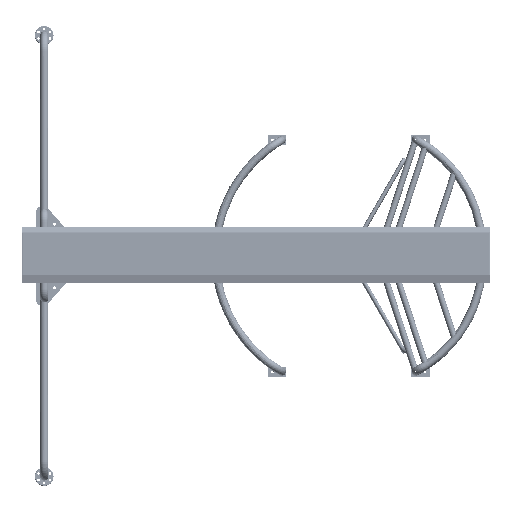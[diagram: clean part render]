
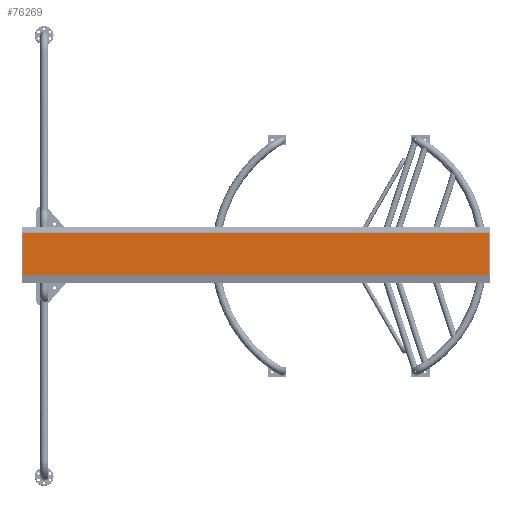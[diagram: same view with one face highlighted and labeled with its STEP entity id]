
A CAD part, top view. The second image highlights one B-rep face of the part: STEP entity #76269.
In plain terms, the highlighted planar face has unit normal (0, 0, 1).
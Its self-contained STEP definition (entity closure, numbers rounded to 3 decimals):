
#6985=LINE('',#178035,#11403);
#7046=LINE('',#178257,#11464);
#7052=LINE('',#178270,#11470);
#7054=LINE('',#178273,#11472);
#7055=LINE('',#178275,#11473);
#7056=LINE('',#178277,#11474);
#7057=LINE('',#178278,#11475);
#7058=LINE('',#178280,#11476);
#11403=VECTOR('',#112240,1000.);
#11464=VECTOR('',#112469,1000.);
#11470=VECTOR('',#112485,1000.);
#11472=VECTOR('',#112489,1000.);
#11473=VECTOR('',#112490,1000.);
#11474=VECTOR('',#112491,1000.);
#11475=VECTOR('',#112492,1000.);
#11476=VECTOR('',#112493,1000.);
#29726=ORIENTED_EDGE('',*,*,#41432,.F.);
#29727=ORIENTED_EDGE('',*,*,#41424,.T.);
#29728=ORIENTED_EDGE('',*,*,#41430,.F.);
#29729=ORIENTED_EDGE('',*,*,#41433,.T.);
#29730=ORIENTED_EDGE('',*,*,#41434,.F.);
#29731=ORIENTED_EDGE('',*,*,#41319,.T.);
#29732=ORIENTED_EDGE('',*,*,#41435,.F.);
#29733=ORIENTED_EDGE('',*,*,#41436,.T.);
#41319=EDGE_CURVE('',#49173,#49172,#6985,.T.);
#41424=EDGE_CURVE('',#49247,#49249,#7046,.T.);
#41430=EDGE_CURVE('',#49251,#49249,#7052,.T.);
#41432=EDGE_CURVE('',#49247,#49252,#7054,.T.);
#41433=EDGE_CURVE('',#49251,#49253,#7055,.T.);
#41434=EDGE_CURVE('',#49173,#49253,#7056,.T.);
#41435=EDGE_CURVE('',#49254,#49172,#7057,.T.);
#41436=EDGE_CURVE('',#49254,#49252,#7058,.T.);
#49172=VERTEX_POINT('',#178034);
#49173=VERTEX_POINT('',#178036);
#49247=VERTEX_POINT('',#178251);
#49249=VERTEX_POINT('',#178256);
#49251=VERTEX_POINT('',#178269);
#49252=VERTEX_POINT('',#178274);
#49253=VERTEX_POINT('',#178276);
#49254=VERTEX_POINT('',#178279);
#60010=EDGE_LOOP('',(#29726,#29727,#29728,#29729,#29730,#29731,#29732,#29733));
#67920=FACE_BOUND('',#60010,.T.);
#71697=PLANE('',#93402);
#76269=ADVANCED_FACE('',(#67920),#71697,.T.);
#93402=AXIS2_PLACEMENT_3D('',#178272,#112487,#112488);
#112240=DIRECTION('',(1.,0.,0.));
#112469=DIRECTION('',(-1.,0.,0.));
#112485=DIRECTION('',(0.,1.,0.));
#112487=DIRECTION('',(0.,0.,1.));
#112488=DIRECTION('',(0.,1.,0.));
#112489=DIRECTION('',(0.,-1.,0.));
#112490=DIRECTION('',(0.,-1.,0.));
#112491=DIRECTION('',(0.,1.,0.));
#112492=DIRECTION('',(0.,-1.,0.));
#112493=DIRECTION('',(0.,1.,0.));
#178034=CARTESIAN_POINT('',(1246.5,-107.13,209.988));
#178035=CARTESIAN_POINT('',(-1248.5,-107.13,209.988));
#178036=CARTESIAN_POINT('',(-1246.5,-107.13,209.988));
#178251=CARTESIAN_POINT('',(1246.5,121.491,209.988));
#178256=CARTESIAN_POINT('',(-1246.5,121.491,209.988));
#178257=CARTESIAN_POINT('',(1248.5,121.491,209.988));
#178269=CARTESIAN_POINT('',(-1246.5,121.489,209.988));
#178270=CARTESIAN_POINT('',(-1246.5,121.489,209.988));
#178272=CARTESIAN_POINT('',(1248.5,122.274,209.988));
#178273=CARTESIAN_POINT('',(1246.5,-107.128,209.988));
#178274=CARTESIAN_POINT('',(1246.5,121.489,209.988));
#178275=CARTESIAN_POINT('',(-1246.5,121.489,209.988));
#178276=CARTESIAN_POINT('',(-1246.5,-107.128,209.988));
#178277=CARTESIAN_POINT('',(-1246.5,121.489,209.988));
#178278=CARTESIAN_POINT('',(1246.5,-107.128,209.988));
#178279=CARTESIAN_POINT('',(1246.5,-107.128,209.988));
#178280=CARTESIAN_POINT('',(1246.5,-107.128,209.988));
